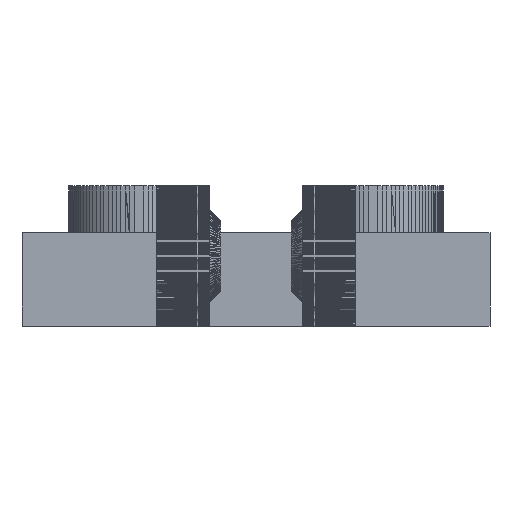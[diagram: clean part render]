
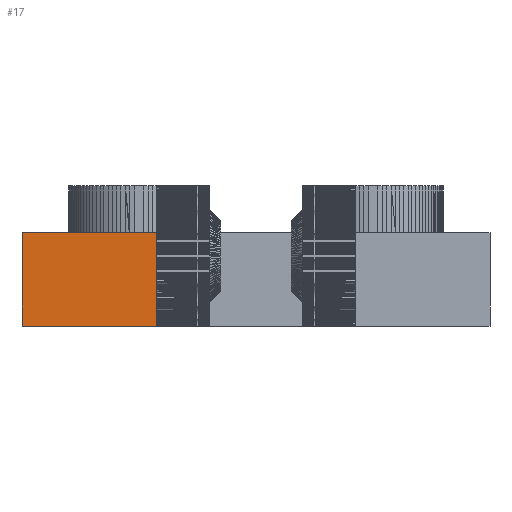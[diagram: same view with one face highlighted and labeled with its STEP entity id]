
A CAD part, front view. The second image highlights one B-rep face of the part: STEP entity #17.
In plain terms, the highlighted planar face has unit normal (0, -1, 0).
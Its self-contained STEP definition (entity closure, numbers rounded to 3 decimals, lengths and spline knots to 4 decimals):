
#17 = ADVANCED_FACE('',(#18),#32,.T.);
#18 = FACE_BOUND('',#19,.T.);
#19 = EDGE_LOOP('',(#20,#55,#83,#111));
#20 = ORIENTED_EDGE('',*,*,#21,.F.);
#21 = EDGE_CURVE('',#22,#24,#26,.T.);
#22 = VERTEX_POINT('',#23);
#23 = CARTESIAN_POINT('',(-7.9968,-0.8064,
    0.));
#24 = VERTEX_POINT('',#25);
#25 = CARTESIAN_POINT('',(-7.9968,-0.8064,3.1936
    ));
#26 = SURFACE_CURVE('',#27,(#31,#43),.PCURVE_S1.);
#27 = LINE('',#28,#29);
#28 = CARTESIAN_POINT('',(-7.9968,-0.8064,
    0.));
#29 = VECTOR('',#30,1.);
#30 = DIRECTION('',(0.,0.,1.));
#31 = PCURVE('',#32,#37);
#32 = PLANE('',#33);
#33 = AXIS2_PLACEMENT_3D('',#34,#35,#36);
#34 = CARTESIAN_POINT('',(-7.9968,-0.8064,3.1936
    ));
#35 = DIRECTION('',(0.,-1.,0.));
#36 = DIRECTION('',(0.,-0.,-1.));
#37 = DEFINITIONAL_REPRESENTATION('',(#38),#42);
#38 = LINE('',#39,#40);
#39 = CARTESIAN_POINT('',(3.194,0.));
#40 = VECTOR('',#41,1.);
#41 = DIRECTION('',(-1.,0.));
#42 = ( GEOMETRIC_REPRESENTATION_CONTEXT(2) 
PARAMETRIC_REPRESENTATION_CONTEXT() REPRESENTATION_CONTEXT('2D SPACE',''
  ) );
#43 = PCURVE('',#44,#49);
#44 = PLANE('',#45);
#45 = AXIS2_PLACEMENT_3D('',#46,#47,#48);
#46 = CARTESIAN_POINT('',(-7.9968,-0.8064,3.1936
    ));
#47 = DIRECTION('',(-1.,0.,0.));
#48 = DIRECTION('',(0.,0.,-1.));
#49 = DEFINITIONAL_REPRESENTATION('',(#50),#54);
#50 = LINE('',#51,#52);
#51 = CARTESIAN_POINT('',(3.194,0.));
#52 = VECTOR('',#53,1.);
#53 = DIRECTION('',(-1.,-0.));
#54 = ( GEOMETRIC_REPRESENTATION_CONTEXT(2) 
PARAMETRIC_REPRESENTATION_CONTEXT() REPRESENTATION_CONTEXT('2D SPACE',''
  ) );
#55 = ORIENTED_EDGE('',*,*,#56,.T.);
#56 = EDGE_CURVE('',#22,#57,#59,.T.);
#57 = VERTEX_POINT('',#58);
#58 = CARTESIAN_POINT('',(-3.4016,-0.8064,
    0.));
#59 = SURFACE_CURVE('',#60,(#64,#71),.PCURVE_S1.);
#60 = LINE('',#61,#62);
#61 = CARTESIAN_POINT('',(-7.9968,-0.8064,
    0.));
#62 = VECTOR('',#63,1.);
#63 = DIRECTION('',(1.,0.,0.));
#64 = PCURVE('',#32,#65);
#65 = DEFINITIONAL_REPRESENTATION('',(#66),#70);
#66 = LINE('',#67,#68);
#67 = CARTESIAN_POINT('',(3.194,0.));
#68 = VECTOR('',#69,1.);
#69 = DIRECTION('',(0.,1.));
#70 = ( GEOMETRIC_REPRESENTATION_CONTEXT(2) 
PARAMETRIC_REPRESENTATION_CONTEXT() REPRESENTATION_CONTEXT('2D SPACE',''
  ) );
#71 = PCURVE('',#72,#77);
#72 = PLANE('',#73);
#73 = AXIS2_PLACEMENT_3D('',#74,#75,#76);
#74 = CARTESIAN_POINT('',(-7.9968,-0.8064,
    0.));
#75 = DIRECTION('',(0.,0.,-1.));
#76 = DIRECTION('',(-1.,0.,-0.));
#77 = DEFINITIONAL_REPRESENTATION('',(#78),#82);
#78 = LINE('',#79,#80);
#79 = CARTESIAN_POINT('',(0.,0.));
#80 = VECTOR('',#81,1.);
#81 = DIRECTION('',(-1.,0.));
#82 = ( GEOMETRIC_REPRESENTATION_CONTEXT(2) 
PARAMETRIC_REPRESENTATION_CONTEXT() REPRESENTATION_CONTEXT('2D SPACE',''
  ) );
#83 = ORIENTED_EDGE('',*,*,#84,.T.);
#84 = EDGE_CURVE('',#57,#85,#87,.T.);
#85 = VERTEX_POINT('',#86);
#86 = CARTESIAN_POINT('',(-3.4016,-0.8064,3.1936
    ));
#87 = SURFACE_CURVE('',#88,(#92,#99),.PCURVE_S1.);
#88 = LINE('',#89,#90);
#89 = CARTESIAN_POINT('',(-3.4016,-0.8064,
    0.));
#90 = VECTOR('',#91,1.);
#91 = DIRECTION('',(0.,0.,1.));
#92 = PCURVE('',#32,#93);
#93 = DEFINITIONAL_REPRESENTATION('',(#94),#98);
#94 = LINE('',#95,#96);
#95 = CARTESIAN_POINT('',(3.194,4.595));
#96 = VECTOR('',#97,1.);
#97 = DIRECTION('',(-1.,0.));
#98 = ( GEOMETRIC_REPRESENTATION_CONTEXT(2) 
PARAMETRIC_REPRESENTATION_CONTEXT() REPRESENTATION_CONTEXT('2D SPACE',''
  ) );
#99 = PCURVE('',#100,#105);
#100 = PLANE('',#101);
#101 = AXIS2_PLACEMENT_3D('',#102,#103,#104);
#102 = CARTESIAN_POINT('',(-3.4016,-5.7536,
    0.1984));
#103 = DIRECTION('',(-1.,0.,0.));
#104 = DIRECTION('',(0.,0.,-1.));
#105 = DEFINITIONAL_REPRESENTATION('',(#106),#110);
#106 = LINE('',#107,#108);
#107 = CARTESIAN_POINT('',(0.198,-4.947));
#108 = VECTOR('',#109,1.);
#109 = DIRECTION('',(-1.,-0.));
#110 = ( GEOMETRIC_REPRESENTATION_CONTEXT(2) 
PARAMETRIC_REPRESENTATION_CONTEXT() REPRESENTATION_CONTEXT('2D SPACE',''
  ) );
#111 = ORIENTED_EDGE('',*,*,#112,.F.);
#112 = EDGE_CURVE('',#24,#85,#113,.T.);
#113 = SURFACE_CURVE('',#114,(#118,#125),.PCURVE_S1.);
#114 = LINE('',#115,#116);
#115 = CARTESIAN_POINT('',(-7.9968,-0.8064,
    3.1936));
#116 = VECTOR('',#117,1.);
#117 = DIRECTION('',(1.,0.,0.));
#118 = PCURVE('',#32,#119);
#119 = DEFINITIONAL_REPRESENTATION('',(#120),#124);
#120 = LINE('',#121,#122);
#121 = CARTESIAN_POINT('',(0.,0.));
#122 = VECTOR('',#123,1.);
#123 = DIRECTION('',(0.,1.));
#124 = ( GEOMETRIC_REPRESENTATION_CONTEXT(2) 
PARAMETRIC_REPRESENTATION_CONTEXT() REPRESENTATION_CONTEXT('2D SPACE',''
  ) );
#125 = PCURVE('',#126,#131);
#126 = PLANE('',#127);
#127 = AXIS2_PLACEMENT_3D('',#128,#129,#130);
#128 = CARTESIAN_POINT('',(-7.9968,-0.8064,
    3.1936));
#129 = DIRECTION('',(0.,0.,1.));
#130 = DIRECTION('',(1.,0.,-0.));
#131 = DEFINITIONAL_REPRESENTATION('',(#132),#136);
#132 = LINE('',#133,#134);
#133 = CARTESIAN_POINT('',(0.,0.));
#134 = VECTOR('',#135,1.);
#135 = DIRECTION('',(1.,0.));
#136 = ( GEOMETRIC_REPRESENTATION_CONTEXT(2) 
PARAMETRIC_REPRESENTATION_CONTEXT() REPRESENTATION_CONTEXT('2D SPACE',''
  ) );
